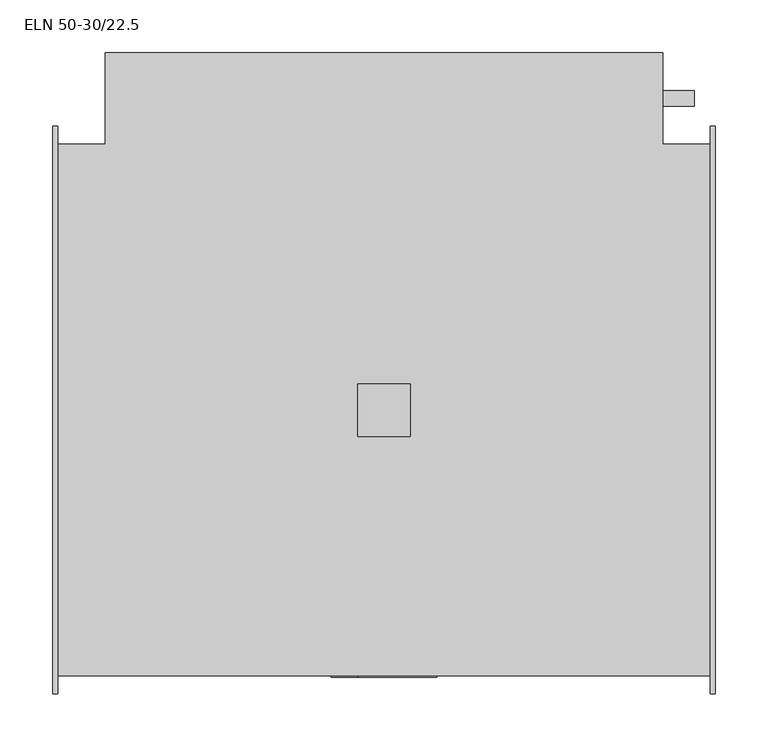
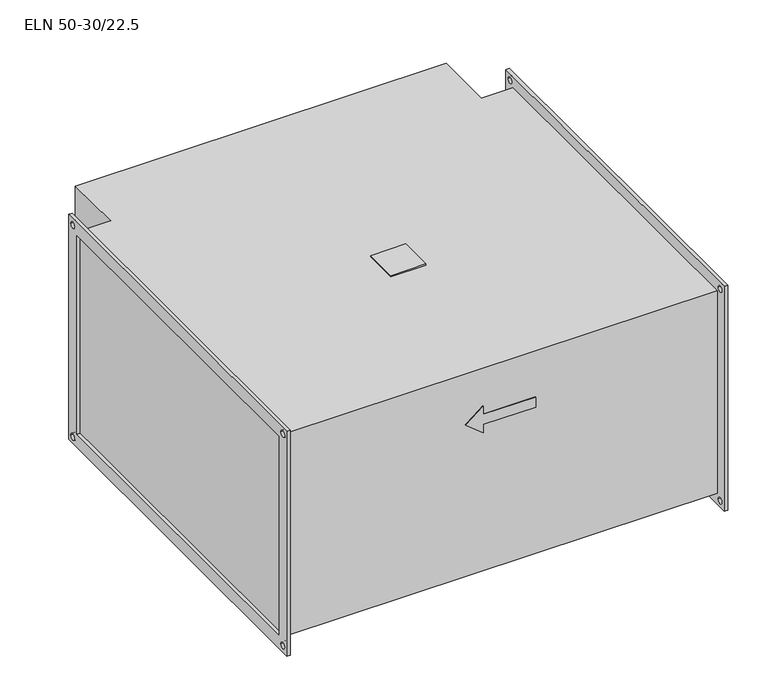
"""IFC4 building model written with IfcOpenShell, lengths in millimetres: proxy geometry, KORF_Нагреватель_Электрический_ELN : ELN 50-30/22.5."""

from ifc_helpers import new_model, si_unit, point, frame, frame_2d, origin, place, context, project, spatial, polyline, circle_curve, trimmed, segment, composite_curve, outline, extrude, source, transform, mapped, element, save


def eln_50_30_22_5_5433b532(model_context):
    return source(origin(), model_context, "Body", "SweptSolid", [
        extrude(outline(polyline([(290.0, -25.0), (290.0, 25.0), (340.0, 25.0), (340.0, -25.0), (290.0, -25.0)])), frame((0.0, 0.0, 153.0), z_axis=(0.0, 0.0, 1.0), x_axis=(1.0, 0.0, 0.0)), (0.0, 0.0, 1.0), 2.0),
        extrude(outline(composite_curve([segment(trimmed(circle_curve(frame_2d((296.5, -76.5)), 7.5), [point((289.0, -76.5))], [point((304.0, -76.5))], False, "CARTESIAN"), True, "CONTINUOUS"), segment(trimmed(circle_curve(frame_2d((296.5, -76.5)), 7.5), [point((304.0, -76.5))], [point((289.0, -76.5))], False, "CARTESIAN"), True, "CONTINUOUS")], self_intersect=False)), frame((580.0, 0.0, 0.0), z_axis=(1.0, 0.0, 0.0), x_axis=(0.0, 1.0, 0.0)), (0.0, 0.0, 1.0), 30.0),
        extrude(outline(composite_curve([segment(trimmed(circle_curve(frame_2d((296.5, -56.5)), 7.5), [point((289.0, -56.5))], [point((304.0, -56.5))], False, "CARTESIAN"), True, "CONTINUOUS"), segment(trimmed(circle_curve(frame_2d((296.5, -56.5)), 7.5), [point((304.0, -56.5))], [point((289.0, -56.5))], False, "CARTESIAN"), True, "CONTINUOUS")], self_intersect=False)), frame((580.0, 0.0, 0.0), z_axis=(1.0, 0.0, 0.0), x_axis=(0.0, 1.0, 0.0)), (0.0, 0.0, 1.0), 30.0),
        extrude(outline(composite_curve([segment(trimmed(circle_curve(frame_2d((296.5, -96.5)), 7.5), [point((289.0, -96.5))], [point((304.0, -96.5))], False, "CARTESIAN"), True, "CONTINUOUS"), segment(trimmed(circle_curve(frame_2d((296.5, -96.5)), 7.5), [point((304.0, -96.5))], [point((289.0, -96.5))], False, "CARTESIAN"), True, "CONTINUOUS")], self_intersect=False)), frame((580.0, 0.0, 0.0), z_axis=(1.0, 0.0, 0.0), x_axis=(0.0, 1.0, 0.0)), (0.0, 0.0, 1.0), 30.0),
        extrude(outline(polyline([(96.5, 290.0), (76.5, 265.0), (56.5, 290.0), (69.0, 290.0), (69.0, 365.0), (84.0, 365.0), (84.0, 290.0), (96.5, 290.0)])), frame((0.0, -254.0, 0.0), z_axis=(0.0, 1.0, 0.0), x_axis=(0.0, 0.0, 1.0)), (0.0, 0.0, 1.0), 1.0),
        extrude(outline(polyline([(625.0, 253.0), (625.0, -253.0), (5.0, -253.0), (5.0, 253.0), (50.0, 253.0), (50.0, 340.0), (580.0, 340.0), (580.0, 253.0), (625.0, 253.0)])), frame((0.0, 0.0, -153.0), z_axis=(0.0, 0.0, 1.0), x_axis=(1.0, 0.0, 0.0)), (0.0, 0.0, 1.0), 306.0),
        extrude(outline(polyline([(-270.0, 170.0), (270.0, 170.0), (270.0, -170.0), (-270.0, -170.0), (-270.0, 170.0)]), holes=[polyline([(-250.0, 150.0), (-250.0, -150.0), (250.0, -150.0), (250.0, 150.0), (-250.0, 150.0)]), composite_curve([segment(trimmed(circle_curve(frame_2d((260.0, 160.0)), 4.5), [point((255.5, 160.0))], [point((264.5, 160.0))], True, "CARTESIAN"), True, "CONTINUOUS"), segment(trimmed(circle_curve(frame_2d((260.0, 160.0)), 4.5), [point((264.5, 160.0))], [point((255.5, 160.0))], True, "CARTESIAN"), True, "CONTINUOUS")], self_intersect=False), composite_curve([segment(trimmed(circle_curve(frame_2d((-260.0, 160.0)), 4.5), [point((-264.5, 160.0))], [point((-255.5, 160.0))], True, "CARTESIAN"), True, "CONTINUOUS"), segment(trimmed(circle_curve(frame_2d((-260.0, 160.0)), 4.5), [point((-255.5, 160.0))], [point((-264.5, 160.0))], True, "CARTESIAN"), True, "CONTINUOUS")], self_intersect=False), composite_curve([segment(trimmed(circle_curve(frame_2d((-260.0, -160.0)), 4.5), [point((-264.5, -160.0))], [point((-255.5, -160.0))], True, "CARTESIAN"), True, "CONTINUOUS"), segment(trimmed(circle_curve(frame_2d((-260.0, -160.0)), 4.5), [point((-255.5, -160.0))], [point((-264.5, -160.0))], True, "CARTESIAN"), True, "CONTINUOUS")], self_intersect=False), composite_curve([segment(trimmed(circle_curve(frame_2d((260.0, -160.0)), 4.5), [point((255.5, -160.0))], [point((264.5, -160.0))], True, "CARTESIAN"), True, "CONTINUOUS"), segment(trimmed(circle_curve(frame_2d((260.0, -160.0)), 4.5), [point((264.5, -160.0))], [point((255.5, -160.0))], True, "CARTESIAN"), True, "CONTINUOUS")], self_intersect=False)]), frame((625.0, 0.0, 0.0), z_axis=(1.0, 0.0, 0.0), x_axis=(0.0, 1.0, 0.0)), (0.0, 0.0, 1.0), 5.0),
        extrude(outline(polyline([(-270.0, 170.0), (270.0, 170.0), (270.0, -170.0), (-270.0, -170.0), (-270.0, 170.0)]), holes=[polyline([(-250.0, 150.0), (-250.0, -150.0), (250.0, -150.0), (250.0, 150.0), (-250.0, 150.0)]), composite_curve([segment(trimmed(circle_curve(frame_2d((260.0, 160.0)), 4.5), [point((255.5, 160.0))], [point((264.5, 160.0))], True, "CARTESIAN"), True, "CONTINUOUS"), segment(trimmed(circle_curve(frame_2d((260.0, 160.0)), 4.5), [point((264.5, 160.0))], [point((255.5, 160.0))], True, "CARTESIAN"), True, "CONTINUOUS")], self_intersect=False), composite_curve([segment(trimmed(circle_curve(frame_2d((-260.0, 160.0)), 4.5), [point((-264.5, 160.0))], [point((-255.5, 160.0))], True, "CARTESIAN"), True, "CONTINUOUS"), segment(trimmed(circle_curve(frame_2d((-260.0, 160.0)), 4.5), [point((-255.5, 160.0))], [point((-264.5, 160.0))], True, "CARTESIAN"), True, "CONTINUOUS")], self_intersect=False), composite_curve([segment(trimmed(circle_curve(frame_2d((-260.0, -160.0)), 4.5), [point((-264.5, -160.0))], [point((-255.5, -160.0))], True, "CARTESIAN"), True, "CONTINUOUS"), segment(trimmed(circle_curve(frame_2d((-260.0, -160.0)), 4.5), [point((-255.5, -160.0))], [point((-264.5, -160.0))], True, "CARTESIAN"), True, "CONTINUOUS")], self_intersect=False), composite_curve([segment(trimmed(circle_curve(frame_2d((260.0, -160.0)), 4.5), [point((255.5, -160.0))], [point((264.5, -160.0))], True, "CARTESIAN"), True, "CONTINUOUS"), segment(trimmed(circle_curve(frame_2d((260.0, -160.0)), 4.5), [point((264.5, -160.0))], [point((255.5, -160.0))], True, "CARTESIAN"), True, "CONTINUOUS")], self_intersect=False)]), frame((0.0, 0.0, 0.0), z_axis=(1.0, 0.0, 0.0), x_axis=(0.0, 1.0, 0.0)), (0.0, 0.0, 1.0), 5.0),
    ])


if __name__ == "__main__":
    model = new_model("IFC4")
    model_context = context("Model", 3, world=origin())
    ifc_project = project(units=[si_unit("LENGTHUNIT", "METRE", prefix="MILLI")], contexts=[model_context])
    site = spatial("IfcSite", under=ifc_project)
    building = spatial("IfcBuilding", under=site)
    placement = place(None, origin())
    eln_50_30_22_5_shape = eln_50_30_22_5_5433b532(model_context)
    element("IfcBuildingElementProxy", 1, Name="KORF_Нагреватель_Электрический_ELN : ELN 50-30/22.5", ObjectType="KORF_Нагреватель_Электрический_ELN : ELN 50-30/22.5", at=placement, inside=building, context=model_context, shape_type="MappedRepresentation", body=[
        mapped(eln_50_30_22_5_shape, transform((0.0, 0.0, 0.0), x_axis=(1.0, 0.0, 0.0), y_axis=(0.0, 1.0, 0.0), z_axis=(0.0, 0.0, 1.0))),
    ])
    save(model, "model.ifc")
